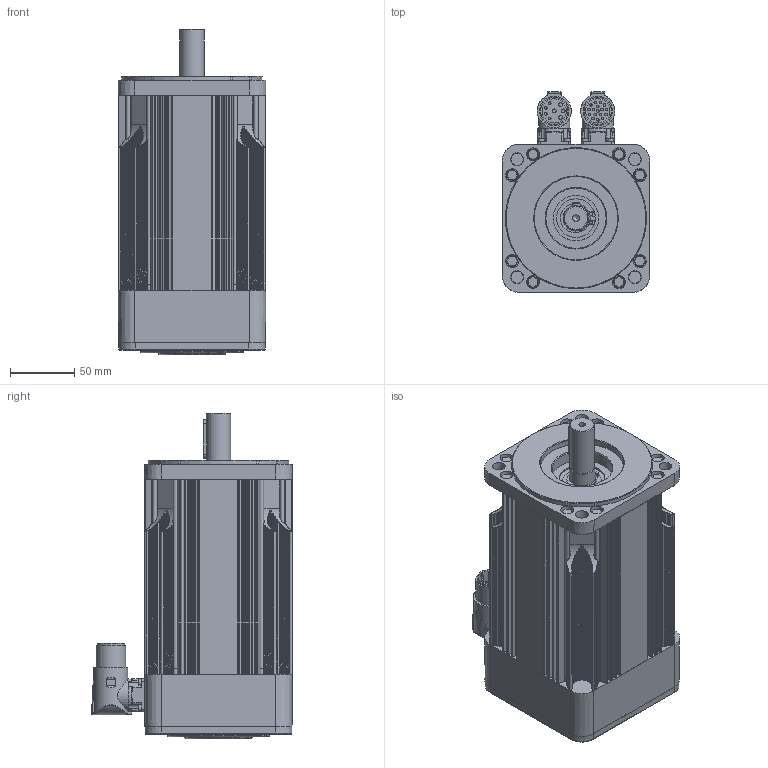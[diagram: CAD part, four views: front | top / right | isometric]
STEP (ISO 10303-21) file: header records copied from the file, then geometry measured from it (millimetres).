
FILE_DESCRIPTION( ( 'Unknown' ), '1' );
FILE_NAME( 'C:/Users/carpi/Desktop/step/Q0A535_7.stp', 'Unknown', ( 'Unknown' ), ( 'Unknown' ), 'PSStep 14.0', 'Unknown', ' ' );
FILE_SCHEMA( ( 'AUTOMOTIVE_DESIGN { 1 0 10303 214 1 1 1 1 }' ) );
Length unit declared in the file: millimetre
Products named in the file (26): Assem1; N33401; CUSC_20_52_15_6304_ZZ; A-Ela 20 P; N09403; Vite a brugola testa cil 8,8 -  M  4 x 12; N11401; Vite a brugola testa cil 8,8 -  M 2,5 x 8; CN M23 PAN-SEG AEDC 139 17 pin 90°o SpTcR; CN M23 PAN-POT BEDC 110 4+4 pin 90°o SpTcR; LI-PIA   6x6 x 30; N49400-7; N49400-7-oa0; N49400-7-oa1; N49400-7-oa2; N49400-7-oa3; N49400-7-oa4; N49400-7-oa5; N49400-7-oa6; N01403; N25400_7
Assembly tree (35 placements, depth 2):
  Assem1
    N33401
    CUSC_20_52_15_6304_ZZ
    CUSC_20_52_15_6304_ZZ
    CUSC_20_52_15_6304_ZZ
    CUSC_20_52_15_6304_ZZ
    CUSC_20_52_15_6304_ZZ
    CUSC_20_52_15_6304_ZZ
    A-Ela 20 P
    N09403
    Vite a brugola testa cil 8,8 -  M  4 x 12  x4
    N11401
    Vite a brugola testa cil 8,8 -  M 2,5 x 8  x8
    CN M23 PAN-SEG AEDC 139 17 pin 90°o SpTcR
    CN M23 PAN-POT BEDC 110 4+4 pin 90°o SpTcR
    LI-PIA   6x6 x 30
    N49400-7
    N49400-7-oa0
    N49400-7-oa1
    N49400-7-oa2
    N49400-7-oa3
    N49400-7-oa4
    N49400-7-oa5
    N49400-7-oa6
    N01403
    N25400_7
Bounding box: 115.45 x 156.78 x 254 mm (x, y, z)
Volume: 890096.7 mm3; surface area: 416898.3 mm2
Topology: 35 solids, 36 shells, 1992 faces, 5007 edges, 3146 vertices
Faces by surface type: cylinder 736, plane 611, torus 219, cone 205, bspline 174, sphere 47
Full cylindrical faces by diameter (mm): 2 x21, 2.013 x8, 2.5 x10, 2.7 x8, 3 x4, 3.242 x4, 3.3 x13, 3.4 x8, 4 x12, 4.7 x8, 5 x1, 7 x4, 8 x1, 8.5 x8, 17 x2, 19 x2, 19.8 x2, 20 x6, 21.3 x2, 23 x2, 23.9 x1, 24.5 x2, 24.7 x1, 25 x2, 30.24 x4, 41.76 x4, 44 x1, 47 x4, 49.5 x1, 50.2 x1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
Entity records: 81484 total; most frequent: CARTESIAN_POINT 27862, DIRECTION 8745, ORIENTED_EDGE 8580, EDGE_CURVE 4290, AXIS2_PLACEMENT_3D 3623, VERTEX_POINT 2853, EDGE_LOOP 2288, FACE_OUTER_BOUND 2011
